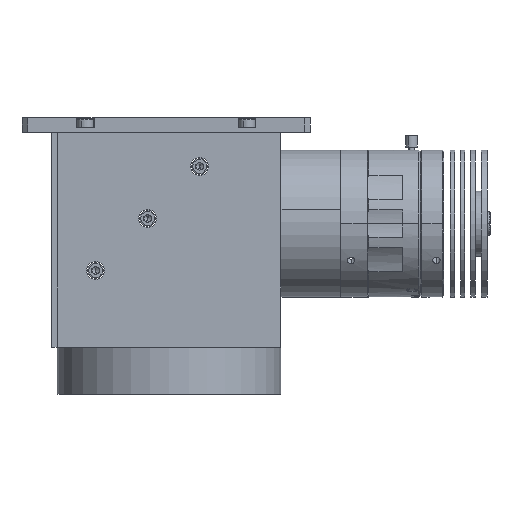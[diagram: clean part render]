
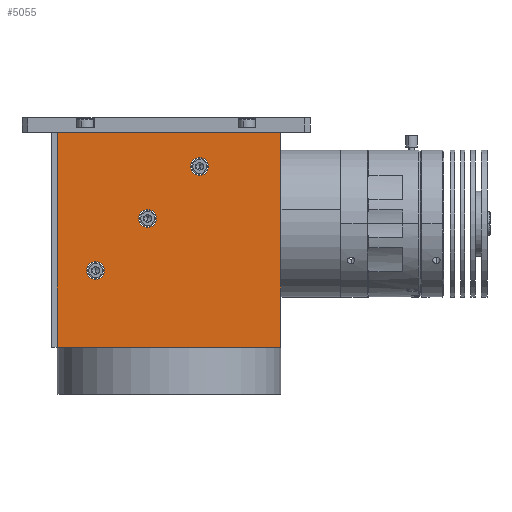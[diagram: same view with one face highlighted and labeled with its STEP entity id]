
A CAD part, front view. The second image highlights one B-rep face of the part: STEP entity #5055.
In plain terms, the highlighted planar face has unit normal (0, -1, 0).
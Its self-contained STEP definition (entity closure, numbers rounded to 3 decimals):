
#79 = CARTESIAN_POINT ( 'NONE',  ( 10.355, -39., 77.426 ) ) ;
#310 = EDGE_CURVE ( 'NONE', #10176, #16138, #3381, .T. ) ;
#637 = EDGE_LOOP ( 'NONE', ( #7026, #5756 ) ) ;
#1242 = LINE ( 'NONE', #5219, #9913 ) ;
#1727 = LINE ( 'NONE', #8746, #10413 ) ;
#1742 = DIRECTION ( 'NONE',  ( 0., 0., -1. ) ) ;
#2162 = EDGE_CURVE ( 'NONE', #8547, #18965, #17951, .T. ) ;
#2601 = EDGE_LOOP ( 'NONE', ( #12106, #12661, #12982, #14379 ) ) ;
#2764 = FACE_BOUND ( 'NONE', #637, .T. ) ;
#2859 = AXIS2_PLACEMENT_3D ( 'NONE', #17898, #8052, #19540 ) ;
#3071 = AXIS2_PLACEMENT_3D ( 'NONE', #14552, #4719, #16214 ) ;
#3156 = ORIENTED_EDGE ( 'NONE', *, *, #8581, .F. ) ;
#3319 = AXIS2_PLACEMENT_3D ( 'NONE', #8271, #19756, #9922 ) ;
#3381 = CIRCLE ( 'NONE', #3319, 3. ) ;
#3817 = DIRECTION ( 'NONE',  ( 0., 0., -1. ) ) ;
#4225 = CARTESIAN_POINT ( 'NONE',  ( -7.322, -39., 59.749 ) ) ;
#4360 = EDGE_CURVE ( 'NONE', #6530, #11865, #18416, .T. ) ;
#4719 = DIRECTION ( 'NONE',  ( 0., -1., 0. ) ) ;
#5055 = ADVANCED_FACE ( 'NONE', ( #2764, #19652, #10923, #6537 ), #10894, .F. ) ;
#5219 = CARTESIAN_POINT ( 'NONE',  ( 38., -39., 89. ) ) ;
#5544 = CARTESIAN_POINT ( 'NONE',  ( 10.355, -39., 77.426 ) ) ;
#5756 = ORIENTED_EDGE ( 'NONE', *, *, #21272, .F. ) ;
#5841 = DIRECTION ( 'NONE',  ( 0., 0., -1. ) ) ;
#6013 = DIRECTION ( 'NONE',  ( 0., 1., 0. ) ) ;
#6530 = VERTEX_POINT ( 'NONE', #13446 ) ;
#6537 = FACE_OUTER_BOUND ( 'NONE', #2601, .T. ) ;
#7026 = ORIENTED_EDGE ( 'NONE', *, *, #13504, .F. ) ;
#7183 = DIRECTION ( 'NONE',  ( 0., 0., -1. ) ) ;
#7211 = LINE ( 'NONE', #11174, #19787 ) ;
#7219 = ORIENTED_EDGE ( 'NONE', *, *, #7811, .F. ) ;
#7301 = CARTESIAN_POINT ( 'NONE',  ( 38., -39., 16. ) ) ;
#7788 = CARTESIAN_POINT ( 'NONE',  ( 10.355, -39., 80.426 ) ) ;
#7811 = EDGE_CURVE ( 'NONE', #18965, #8547, #14439, .T. ) ;
#7995 = AXIS2_PLACEMENT_3D ( 'NONE', #14206, #6013, #17519 ) ;
#8052 = DIRECTION ( 'NONE',  ( 0., -1., 0. ) ) ;
#8271 = CARTESIAN_POINT ( 'NONE',  ( -7.322, -39., 59.749 ) ) ;
#8547 = VERTEX_POINT ( 'NONE', #9011 ) ;
#8581 = EDGE_CURVE ( 'NONE', #16138, #10176, #19477, .T. ) ;
#8746 = CARTESIAN_POINT ( 'NONE',  ( -38., -39., 89. ) ) ;
#8887 = VERTEX_POINT ( 'NONE', #10216 ) ;
#9011 = CARTESIAN_POINT ( 'NONE',  ( -25., -39., 39.071 ) ) ;
#9913 = VECTOR ( 'NONE', #16713, 1000. ) ;
#9922 = DIRECTION ( 'NONE',  ( 0., 0., -1. ) ) ;
#10176 = VERTEX_POINT ( 'NONE', #11809 ) ;
#10216 = CARTESIAN_POINT ( 'NONE',  ( 10.355, -39., 74.426 ) ) ;
#10413 = VECTOR ( 'NONE', #3817, 1000. ) ;
#10894 = PLANE ( 'NONE',  #7995 ) ;
#10923 = FACE_BOUND ( 'NONE', #12821, .T. ) ;
#11174 = CARTESIAN_POINT ( 'NONE',  ( -38., -39., 89. ) ) ;
#11380 = VERTEX_POINT ( 'NONE', #12926 ) ;
#11521 = DIRECTION ( 'NONE',  ( 0., -1., 0. ) ) ;
#11640 = CIRCLE ( 'NONE', #12448, 3. ) ;
#11809 = CARTESIAN_POINT ( 'NONE',  ( -7.322, -39., 56.749 ) ) ;
#11865 = VERTEX_POINT ( 'NONE', #7301 ) ;
#11891 = AXIS2_PLACEMENT_3D ( 'NONE', #4225, #15677, #5841 ) ;
#12106 = ORIENTED_EDGE ( 'NONE', *, *, #4360, .T. ) ;
#12315 = ORIENTED_EDGE ( 'NONE', *, *, #2162, .F. ) ;
#12448 = AXIS2_PLACEMENT_3D ( 'NONE', #5544, #17033, #7183 ) ;
#12557 = ORIENTED_EDGE ( 'NONE', *, *, #310, .F. ) ;
#12661 = ORIENTED_EDGE ( 'NONE', *, *, #17407, .F. ) ;
#12821 = EDGE_LOOP ( 'NONE', ( #12315, #7219 ) ) ;
#12834 = DIRECTION ( 'NONE',  ( 1., 0., 0. ) ) ;
#12901 = EDGE_CURVE ( 'NONE', #11380, #16478, #7211, .T. ) ;
#12926 = CARTESIAN_POINT ( 'NONE',  ( -38., -39., 89. ) ) ;
#12982 = ORIENTED_EDGE ( 'NONE', *, *, #12901, .F. ) ;
#13446 = CARTESIAN_POINT ( 'NONE',  ( -38., -39., 16. ) ) ;
#13504 = EDGE_CURVE ( 'NONE', #8887, #20341, #17727, .T. ) ;
#14032 = CARTESIAN_POINT ( 'NONE',  ( -38., -39., 16. ) ) ;
#14206 = CARTESIAN_POINT ( 'NONE',  ( -38., -39., 89. ) ) ;
#14379 = ORIENTED_EDGE ( 'NONE', *, *, #20073, .T. ) ;
#14439 = CIRCLE ( 'NONE', #2859, 3. ) ;
#14536 = VECTOR ( 'NONE', #15673, 1000. ) ;
#14552 = CARTESIAN_POINT ( 'NONE',  ( -25., -39., 42.071 ) ) ;
#15020 = CARTESIAN_POINT ( 'NONE',  ( 38., -39., 89. ) ) ;
#15673 = DIRECTION ( 'NONE',  ( 1., 0., 0. ) ) ;
#15675 = CARTESIAN_POINT ( 'NONE',  ( -25., -39., 45.071 ) ) ;
#15677 = DIRECTION ( 'NONE',  ( 0., -1., 0. ) ) ;
#16138 = VERTEX_POINT ( 'NONE', #17220 ) ;
#16214 = DIRECTION ( 'NONE',  ( 0., 0., -1. ) ) ;
#16478 = VERTEX_POINT ( 'NONE', #15020 ) ;
#16706 = AXIS2_PLACEMENT_3D ( 'NONE', #79, #11521, #1742 ) ;
#16713 = DIRECTION ( 'NONE',  ( 0., 0., -1. ) ) ;
#17033 = DIRECTION ( 'NONE',  ( 0., -1., 0. ) ) ;
#17220 = CARTESIAN_POINT ( 'NONE',  ( -7.322, -39., 62.749 ) ) ;
#17407 = EDGE_CURVE ( 'NONE', #16478, #11865, #1242, .T. ) ;
#17519 = DIRECTION ( 'NONE',  ( 0., 0., 1. ) ) ;
#17727 = CIRCLE ( 'NONE', #16706, 3. ) ;
#17898 = CARTESIAN_POINT ( 'NONE',  ( -25., -39., 42.071 ) ) ;
#17951 = CIRCLE ( 'NONE', #3071, 3. ) ;
#18416 = LINE ( 'NONE', #14032, #14536 ) ;
#18965 = VERTEX_POINT ( 'NONE', #15675 ) ;
#19477 = CIRCLE ( 'NONE', #11891, 3. ) ;
#19540 = DIRECTION ( 'NONE',  ( 0., 0., -1. ) ) ;
#19652 = FACE_BOUND ( 'NONE', #20593, .T. ) ;
#19756 = DIRECTION ( 'NONE',  ( 0., -1., 0. ) ) ;
#19787 = VECTOR ( 'NONE', #12834, 1000. ) ;
#20073 = EDGE_CURVE ( 'NONE', #11380, #6530, #1727, .T. ) ;
#20341 = VERTEX_POINT ( 'NONE', #7788 ) ;
#20593 = EDGE_LOOP ( 'NONE', ( #12557, #3156 ) ) ;
#21272 = EDGE_CURVE ( 'NONE', #20341, #8887, #11640, .T. ) ;
